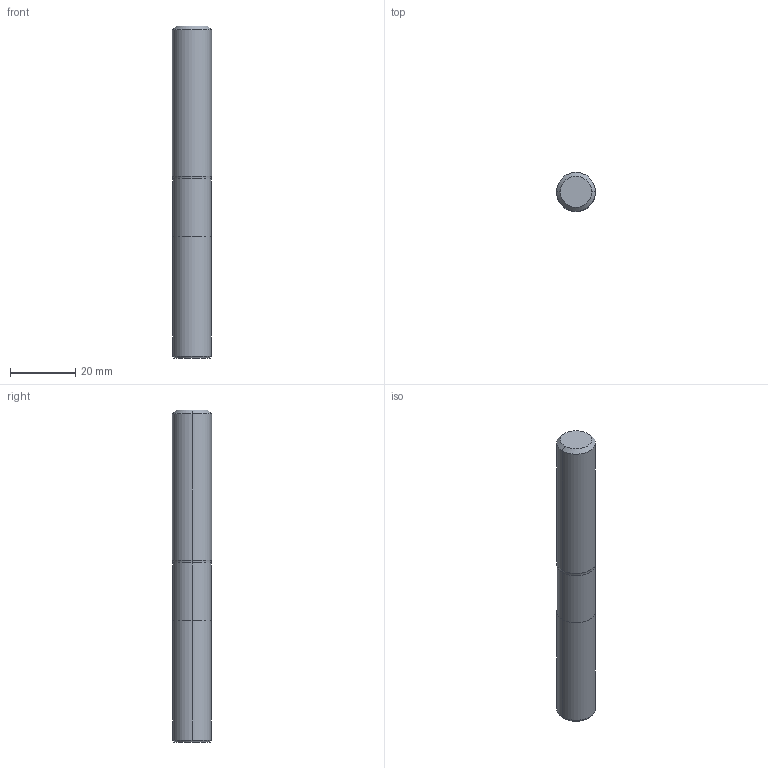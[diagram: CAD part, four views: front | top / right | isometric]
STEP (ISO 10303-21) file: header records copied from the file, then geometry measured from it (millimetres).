
FILE_DESCRIPTION (( 'STEP AP214' ), '1' );
FILE_NAME ('817.118.00_3D-model.step', '2022-02-24T00:09:48', ( '' ), ( '' ), 'SwSTEP 2.0', 'SolidWorks 2020', '' );
FILE_SCHEMA (( 'AUTOMOTIVE_DESIGN' ));
Length unit declared in the file: millimetre
Products named in the file (3): CUT-3D^Baugr178; NOCUT-3D^Baugr178; 817.118.00_3D-model
Assembly tree (2 placements, depth 2):
  817.118.00_3D-model
    CUT-3D^Baugr178
    NOCUT-3D^Baugr178
Bounding box: 12 x 12 x 102 mm (x, y, z)
Volume: 11299.1 mm3; surface area: 4213.8 mm2
Topology: 2 solids, 2 shells, 16 faces, 28 edges, 16 vertices
Faces by surface type: cylinder 6, cone 4, plane 4, torus 2
Entity records: 508 total; most frequent: DIRECTION 94, CARTESIAN_POINT 68, ORIENTED_EDGE 56, AXIS2_PLACEMENT_3D 42, EDGE_CURVE 28, CIRCLE 18, EDGE_LOOP 16, FACE_OUTER_BOUND 16
